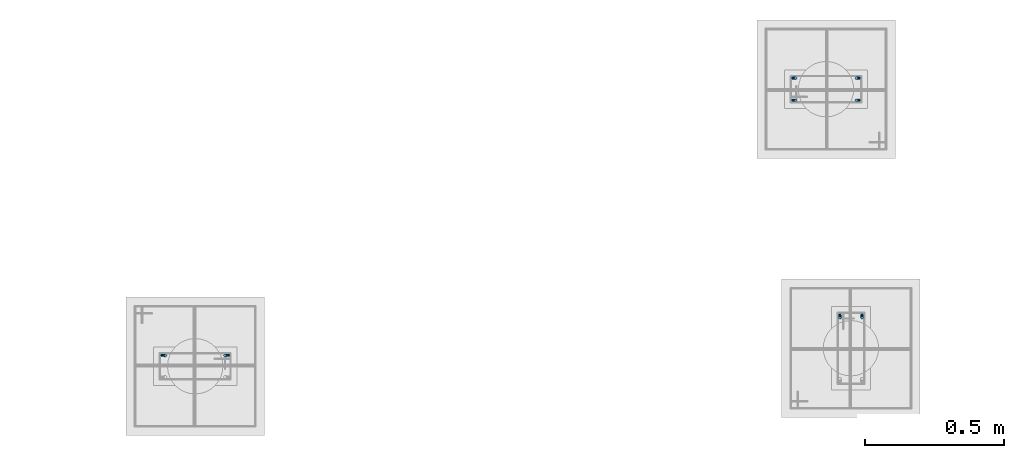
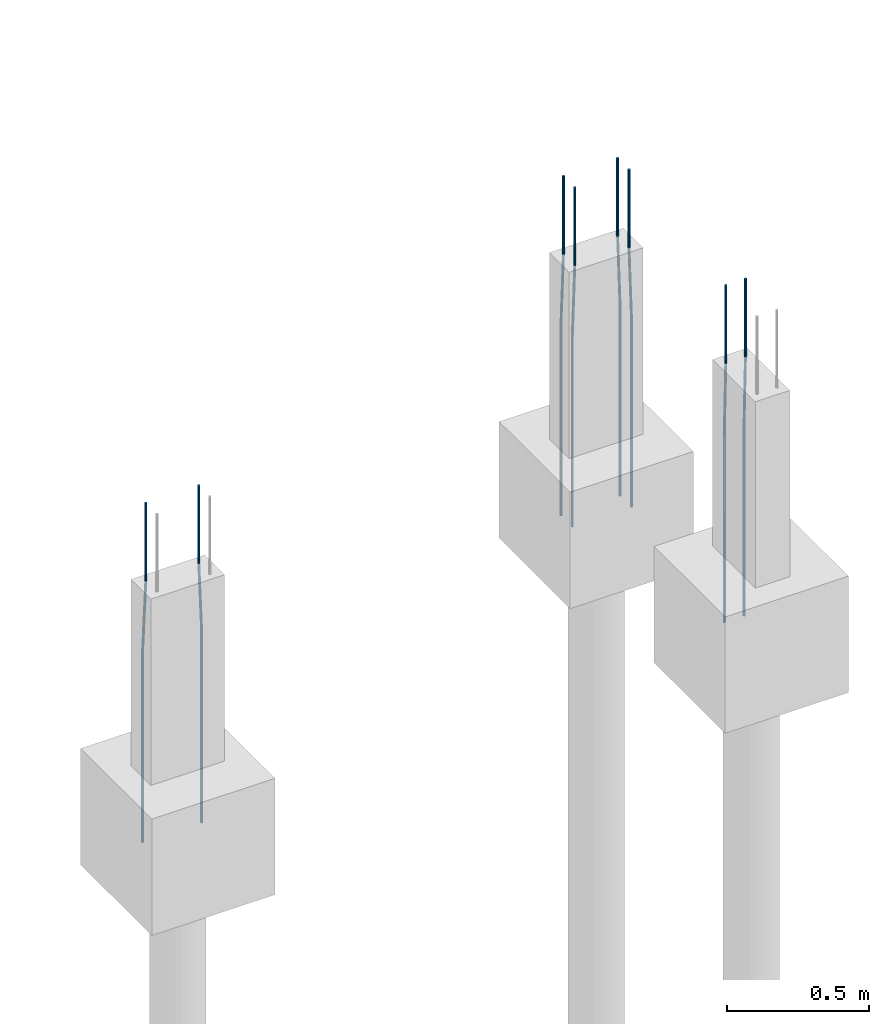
# One storey, part 50 of 119: 8 reinforcing bars.
"""IFC4 building model written with IfcOpenShell, lengths in centimetres."""

import ifcopenshell
import ifcopenshell.guid

model = None  # the IFC model being written
_history = None  # IfcOwnerHistory: only IFC2X3 demands one
_inside = {}  # id of a spatial element -> (the spatial element, [elements in it])
_under = {}  # id of a project, library or spatial element -> (it, [spatial elements below it])
_declared = {}  # id of a project -> (the project, [libraries it declares])
_typed = {}  # id of a type object -> (the type object, [elements of that type])
_made_of = {}  # id of a material, layer set ... -> (it, [elements and type objects made of it])


def new_model(schema):
    """Start an empty IFC model of exactly this schema.

    Asked for "IFC4X3", IfcOpenShell would pick the latest addendum, in which some entities
    have other attributes; the version numbers below select the first issue.
    IFC2X3 requires an IfcOwnerHistory on every rooted entity: one is made here for all.
    """
    global model, _history
    if schema == "IFC4X3":
        model = ifcopenshell.file(schema_version=(4, 3, 0, 0))
    else:
        model = ifcopenshell.file(schema=schema)
    _inside.clear()
    _under.clear()
    _declared.clear()
    _typed.clear()
    _made_of.clear()
    _history = None
    if model.schema == "IFC2X3":
        org = make("IfcOrganization", Name="unknown")
        user = make(
            "IfcPersonAndOrganization",
            ThePerson=make("IfcPerson", FamilyName="unknown"),
            TheOrganization=org,
        )
        app = make(
            "IfcApplication",
            ApplicationDeveloper=org,
            Version="unknown",
            ApplicationFullName="unknown",
            ApplicationIdentifier="unknown",
        )
        _history = make(
            "IfcOwnerHistory",
            OwningUser=user,
            OwningApplication=app,
            ChangeAction="ADDED",
            CreationDate=0,
        )
    return model


def make(cls, **values):
    """One entity of the class cls with the attributes given. An attribute that is None is left unset."""
    return model.create_entity(
        cls, **{name: value for name, value in values.items() if value is not None}
    )


def entity(cls, *values):
    """Any entity or typed value of the class cls, its attributes in the order of the schema. None: left unset."""
    e = model.create_entity(cls)
    for i, value in enumerate(values):
        if value is not None:
            e[i] = value
    return e


def rooted(cls, **values):
    """An entity with a GlobalId (a new one), such as an element, a storey or a relation."""
    return make(cls, GlobalId=ifcopenshell.guid.new(), OwnerHistory=_history, **values)


def si_unit(unit_type, name, prefix=None):
    """IfcSIUnit, for example si_unit("LENGTHUNIT", "METRE", prefix="MILLI")."""
    return make("IfcSIUnit", UnitType=unit_type, Prefix=prefix, Name=name)


def derived_unit(unit_type, elements):
    """IfcDerivedUnit: a product of units, each with its exponent."""
    return make(
        "IfcDerivedUnit",
        Elements=[
            make("IfcDerivedUnitElement", Unit=unit, Exponent=power)
            for unit, power in elements
        ],
        UnitType=unit_type,
    )


def assignment(units):
    """IfcUnitAssignment: the units of a project."""
    return None if units is None else make("IfcUnitAssignment", Units=units)


def point(xyz):
    """IfcCartesianPoint."""
    return None if xyz is None else make("IfcCartesianPoint", Coordinates=xyz)


def direction(xyz):
    """IfcDirection."""
    return None if xyz is None else make("IfcDirection", DirectionRatios=xyz)


def frame(location, z_axis=None, x_axis=None):
    """IfcAxis2Placement3D, a coordinate frame: its origin and axes. An axis left out is left unset."""
    return make(
        "IfcAxis2Placement3D",
        Location=point(location),
        Axis=direction(z_axis),
        RefDirection=direction(x_axis),
    )


def origin_with_axes():
    """The frame at (0, 0, 0) with the z axis (0, 0, 1) and the x axis (1, 0, 0) written out."""
    return frame((0.0, 0.0, 0.0), z_axis=(0.0, 0.0, 1.0), x_axis=(1.0, 0.0, 0.0))


def place(relative_to, where):
    """IfcLocalPlacement: puts the frame where relative to a parent placement (None: the world)."""
    return make(
        "IfcLocalPlacement", PlacementRelTo=relative_to, RelativePlacement=where
    )


def context(
    kind, dimensions, precision=None, world=None, true_north=None, identifier=None
):
    """IfcGeometricRepresentationContext, for example the 3D "Model" context."""
    return make(
        "IfcGeometricRepresentationContext",
        ContextIdentifier=identifier,
        ContextType=kind,
        CoordinateSpaceDimension=dimensions,
        Precision=precision,
        WorldCoordinateSystem=world,
        TrueNorth=true_north,
    )


def project(units=None, contexts=None):
    """IfcProject with its units and contexts."""
    return rooted(
        "IfcProject",
        Name="project",
        RepresentationContexts=contexts,
        UnitsInContext=assignment(units),
    )


def spatial(cls, under=None, at=None, **own):
    """A site, building, storey or space (cls), placed at a placement, below another one or the project."""
    s = rooted(cls, ObjectPlacement=at, **own)
    if under is not None:
        _under.setdefault(under.id(), (under, []))[1].append(s)
    return s


def shape(context_of_items, identifier, shape_type, items):
    """IfcShapeRepresentation: the items that make up one representation, for example the "Body"."""
    return make(
        "IfcShapeRepresentation",
        ContextOfItems=context_of_items,
        RepresentationIdentifier=identifier,
        RepresentationType=shape_type,
        Items=items,
    )


def made_of(thing, what):
    """Note that an element or type object is made of a material, layer set ...; save() writes the relation."""
    if what is not None:
        _made_of.setdefault(what.id(), (what, []))[1].append(thing)
    return thing


def element(
    cls,
    number,
    at=None,
    inside=None,
    cuts=None,
    type_object=None,
    material=None,
    context=None,
    identifier="Body",
    shape_type=None,
    held_by="IfcProductDefinitionShape",
    body=None,
    shapes=None,
    **own,
):
    """One element of the class cls, such as IfcWall. Its Tag is "e" and its number.

    at: its placement. inside: the storey or other place that contains it. cuts: it is an
    opening in that element (IfcRelVoidsElement). A single representation is given by context,
    identifier, shape_type and body (its items); several are given by shapes. held_by: the class
    of the entity that holds the representations. save() writes the other relations.
    """
    e = rooted(cls, Tag="e%d" % number, ObjectPlacement=at, **own)
    if body is not None:
        shapes = [shape(context, identifier, shape_type, body)]
    if shapes is not None:
        e.Representation = make(held_by, Representations=shapes)
    if inside is not None:
        _inside.setdefault(inside.id(), (inside, []))[1].append(e)
    if cuts is not None:
        rooted(
            "IfcRelVoidsElement", RelatingBuildingElement=cuts, RelatedOpeningElement=e
        )
    if type_object is not None:
        _typed.setdefault(type_object.id(), (type_object, []))[1].append(e)
    return made_of(e, material)


def aggregate(whole, parts):
    """IfcRelAggregates: a whole, such as a stair, and the parts it consists of."""
    return rooted("IfcRelAggregates", RelatingObject=whole, RelatedObjects=parts)


def save(model, path):
    """Write the relations noted so far, then the file.

    IfcRelAggregates (storeys below a building ...), IfcRelContainedInSpatialStructure (elements
    in a storey), IfcRelDefinesByType, IfcRelAssociatesMaterial and IfcRelDeclares: one each for
    every whole, place, type object, material and project.
    """
    for whole, parts in _under.values():
        aggregate(whole, parts)
    for where, things in _inside.values():
        rooted(
            "IfcRelContainedInSpatialStructure",
            RelatedElements=things,
            RelatingStructure=where,
        )
    for kind, things in _typed.values():
        rooted("IfcRelDefinesByType", RelatedObjects=things, RelatingType=kind)
    for what, things in _made_of.values():
        rooted("IfcRelAssociatesMaterial", RelatedObjects=things, RelatingMaterial=what)
    for by, libraries in _declared.values():
        rooted("IfcRelDeclares", RelatingContext=by, RelatedDefinitions=libraries)
    model.write(path)


model = new_model("IFC4")

# Units and contexts
model_context = context("Model", 3, precision=1e-05, world=origin_with_axes(), identifier="Body")
ifc_project = project(units=[si_unit("LENGTHUNIT", "METRE", prefix="CENTI"), si_unit("VOLUMEUNIT", "CUBIC_METRE"), si_unit("AREAUNIT", "SQUARE_METRE"), si_unit("POWERUNIT", "WATT"), si_unit("LUMINOUSFLUXUNIT", "LUMEN"), si_unit("ELECTRICCURRENTUNIT", "AMPERE"), si_unit("PRESSUREUNIT", "PASCAL", prefix="KILO"), si_unit("MASSUNIT", "GRAM", prefix="KILO"), si_unit("PLANEANGLEUNIT", "RADIAN"), derived_unit("VOLUMETRICFLOWRATEUNIT", [(si_unit("LENGTHUNIT", "METRE"), 3), (si_unit("TIMEUNIT", "SECOND"), -1)])], contexts=[model_context])

# Site, building, storey
site_placement = place(None, frame((-4000.0, 0.0, 0.0), z_axis=(0.0, 0.0, 1.0), x_axis=(1.0, 0.0, 0.0)))
site = spatial("IfcSite", under=ifc_project, at=site_placement, Name="PADRÃO")
building_placement = place(site_placement, frame((0.0, 0.0, -14.0)))
building = spatial("IfcBuilding", under=site, at=building_placement, Name="CRECHE PRÉ-ESCOLA TIPO 2")
storey_placement = place(building_placement, origin_with_axes())
storey = spatial("IfcBuildingStorey", under=building, at=storey_placement, Name="FUNDAÇÃO", CompositionType="ELEMENT", Elevation=-14.0)

# Reinforcing bars
for number, where, z_axis, x_axis, name in (
    (1, (506.17, 4089.0, 33.3573001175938), (0.0, 0.0, 1.0), (1.0, 0.0, 0.0), "P17 - Longitudinal"),
    (2, (506.17, 4081.0, 33.3573001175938), (0.0, 0.0, 1.0), (1.0, 0.0, 0.0), "P17 - Longitudinal"),
):
    element("IfcReinforcingBar", number, at=place(storey_placement, frame(where, z_axis=z_axis, x_axis=x_axis)), inside=storey, Name=name, BarLength=0.0, CrossSectionArea=7.853981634e-05, NominalDiameter=1.0, PredefinedType="MAIN", context=model_context, shape_type="AdvancedSweptSolid", body=[
        entity("IfcSweptDiskSolid", entity("IfcCompositeCurve", [entity("IfcCompositeCurveSegment", "CONTINUOUS", True, entity("IfcPolyline", [entity("IfcCartesianPoint", [0.5, 0.0, -145.357300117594]), entity("IfcCartesianPoint", [0.5, 0.0, -63.3573001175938])])), entity("IfcCompositeCurveSegment", "CONTINUOUS", True, entity("IfcPolyline", [entity("IfcCartesianPoint", [0.5, 0.0, -63.3573001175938]), entity("IfcCartesianPoint", [-0.5, 0.0, -33.3573001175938])])), entity("IfcCompositeCurveSegment", "CONTINUOUS", True, entity("IfcPolyline", [entity("IfcCartesianPoint", [-0.5, 0.0, -33.3573001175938]), entity("IfcCartesianPoint", [-0.5, 0.0, 0.0])]))], False), 0.5),
    ])
for number, where, z_axis, x_axis, name in (
    (3, (483.17, 4081.0, 33.3573001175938), (0.0, 0.0, 1.0), (1.0, 0.0, 0.0), "P17 - Longitudinal"),
    (4, (483.17, 4089.0, 33.3573001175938), (0.0, 0.0, 1.0), (1.0, 0.0, 0.0), "P17 - Longitudinal"),
):
    element("IfcReinforcingBar", number, at=place(storey_placement, frame(where, z_axis=z_axis, x_axis=x_axis)), inside=storey, Name=name, BarLength=0.0, CrossSectionArea=7.853981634e-05, NominalDiameter=1.0, PredefinedType="MAIN", context=model_context, shape_type="AdvancedSweptSolid", body=[
        entity("IfcSweptDiskSolid", entity("IfcCompositeCurve", [entity("IfcCompositeCurveSegment", "CONTINUOUS", True, entity("IfcPolyline", [entity("IfcCartesianPoint", [-0.5, 0.0, -145.357300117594]), entity("IfcCartesianPoint", [-0.5, 0.0, -63.3573001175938])])), entity("IfcCompositeCurveSegment", "CONTINUOUS", True, entity("IfcPolyline", [entity("IfcCartesianPoint", [-0.5, 0.0, -63.3573001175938]), entity("IfcCartesianPoint", [0.5, 0.0, -33.3573001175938])])), entity("IfcCompositeCurveSegment", "CONTINUOUS", True, entity("IfcPolyline", [entity("IfcCartesianPoint", [0.5, 0.0, -33.3573001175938]), entity("IfcCartesianPoint", [0.5, 0.0, 0.0])]))], False), 0.5),
    ])
reinforcing_bar_1_placement = place(storey_placement, frame((255.625, 3988.9375, 33.3573001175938), z_axis=(0.0, 0.0, 1.0), x_axis=(1.0, 0.0, 0.0)))
element("IfcReinforcingBar", 5, at=reinforcing_bar_1_placement, inside=storey, Name="P23 - Longitudinal", BarLength=0.0, CrossSectionArea=7.853981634e-05, NominalDiameter=1.0, PredefinedType="MAIN", context=model_context, shape_type="AdvancedSweptSolid", body=[
    entity("IfcSweptDiskSolid", entity("IfcCompositeCurve", [entity("IfcCompositeCurveSegment", "CONTINUOUS", True, entity("IfcPolyline", [entity("IfcCartesianPoint", [-0.625, 0.0625, -145.357300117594]), entity("IfcCartesianPoint", [-0.625, 0.0625, -63.3573001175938])])), entity("IfcCompositeCurveSegment", "CONTINUOUS", True, entity("IfcPolyline", [entity("IfcCartesianPoint", [-0.625, 0.0625, -63.3573001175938]), entity("IfcCartesianPoint", [0.625, -0.0625, -33.3573001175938])])), entity("IfcCompositeCurveSegment", "CONTINUOUS", True, entity("IfcPolyline", [entity("IfcCartesianPoint", [0.625, -0.0625, -33.3573001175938]), entity("IfcCartesianPoint", [0.625, -0.0625, 0.0])]))], False), 0.5),
])
reinforcing_bar_2_placement = place(storey_placement, frame((278.375, 3988.9375, 33.3573001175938), z_axis=(0.0, 0.0, 1.0), x_axis=(1.0, 0.0, 0.0)))
element("IfcReinforcingBar", 6, at=reinforcing_bar_2_placement, inside=storey, Name="P23 - Longitudinal", BarLength=0.0, CrossSectionArea=7.853981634e-05, NominalDiameter=1.0, PredefinedType="MAIN", context=model_context, shape_type="AdvancedSweptSolid", body=[
    entity("IfcSweptDiskSolid", entity("IfcCompositeCurve", [entity("IfcCompositeCurveSegment", "CONTINUOUS", True, entity("IfcPolyline", [entity("IfcCartesianPoint", [0.625, 0.0625, -145.357300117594]), entity("IfcCartesianPoint", [0.625, 0.0625, -63.3573001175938])])), entity("IfcCompositeCurveSegment", "CONTINUOUS", True, entity("IfcPolyline", [entity("IfcCartesianPoint", [0.625, 0.0625, -63.3573001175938]), entity("IfcCartesianPoint", [-0.625, -0.0625, -33.3573001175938])])), entity("IfcCompositeCurveSegment", "CONTINUOUS", True, entity("IfcPolyline", [entity("IfcCartesianPoint", [-0.625, -0.0625, -33.3573001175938]), entity("IfcCartesianPoint", [-0.625, -0.0625, 0.0])]))], False), 0.5),
])
for number, where, z_axis, x_axis, name in (
    (7, (507.67, 4003.0, 33.3573001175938), (0.0, 0.0, 1.0), (1.0, 0.0, 0.0), "P24 - Longitudinal"),
    (8, (499.67, 4003.0, 33.3573001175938), (0.0, 0.0, 1.0), (1.0, 0.0, 0.0), "P24 - Longitudinal"),
):
    element("IfcReinforcingBar", number, at=place(storey_placement, frame(where, z_axis=z_axis, x_axis=x_axis)), inside=storey, Name=name, BarLength=0.0, CrossSectionArea=7.853981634e-05, NominalDiameter=1.0, PredefinedType="MAIN", context=model_context, shape_type="AdvancedSweptSolid", body=[
        entity("IfcSweptDiskSolid", entity("IfcCompositeCurve", [entity("IfcCompositeCurveSegment", "CONTINUOUS", True, entity("IfcPolyline", [entity("IfcCartesianPoint", [0.0, 0.5, -145.357300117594]), entity("IfcCartesianPoint", [0.0, 0.5, -63.3573001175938])])), entity("IfcCompositeCurveSegment", "CONTINUOUS", True, entity("IfcPolyline", [entity("IfcCartesianPoint", [0.0, 0.5, -63.3573001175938]), entity("IfcCartesianPoint", [0.0, -0.5, -33.3573001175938])])), entity("IfcCompositeCurveSegment", "CONTINUOUS", True, entity("IfcPolyline", [entity("IfcCartesianPoint", [0.0, -0.5, -33.3573001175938]), entity("IfcCartesianPoint", [0.0, -0.5, 0.0])]))], False), 0.5),
    ])

save(model, "model.ifc")
